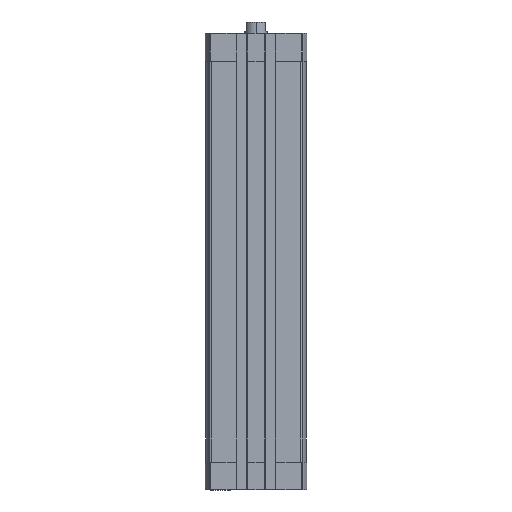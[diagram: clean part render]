
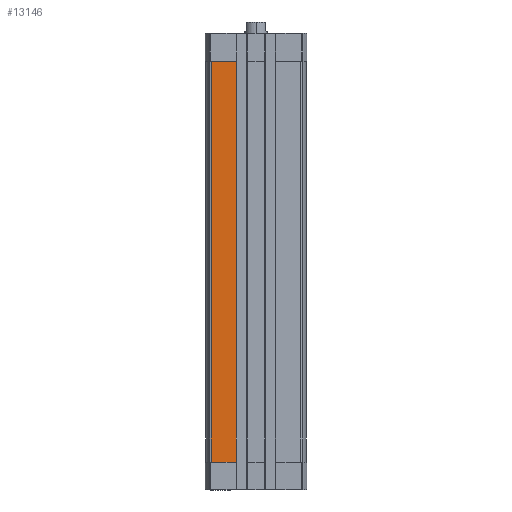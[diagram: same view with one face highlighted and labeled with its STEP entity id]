
A CAD part, left-side view. The second image highlights one B-rep face of the part: STEP entity #13146.
In plain terms, the highlighted planar face has unit normal (-1, 0, 0).
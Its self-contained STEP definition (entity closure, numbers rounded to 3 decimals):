
#57 = CARTESIAN_POINT ( 'NONE',  ( -27., 10.7, -15. ) ) ;
#1042 = DIRECTION ( 'NONE',  ( 0., 0., -1. ) ) ;
#1465 = ORIENTED_EDGE ( 'NONE', *, *, #7260, .T. ) ;
#1785 = CARTESIAN_POINT ( 'NONE',  ( -27., 24.093, -15. ) ) ;
#2828 = VECTOR ( 'NONE', #1042, 1000. ) ;
#3388 = DIRECTION ( 'NONE',  ( 0., -1., 0. ) ) ;
#3964 = LINE ( 'NONE', #7370, #9969 ) ;
#4076 = ORIENTED_EDGE ( 'NONE', *, *, #5489, .T. ) ;
#4108 = VECTOR ( 'NONE', #3388, 1000. ) ;
#4377 = EDGE_CURVE ( 'NONE', #12970, #13076, #6412, .T. ) ;
#4483 = VECTOR ( 'NONE', #7427, 1000. ) ;
#5260 = ORIENTED_EDGE ( 'NONE', *, *, #6555, .T. ) ;
#5489 = EDGE_CURVE ( 'NONE', #13076, #8038, #7285, .T. ) ;
#5827 = DIRECTION ( 'NONE',  ( 0., 0., 1. ) ) ;
#6176 = DIRECTION ( 'NONE',  ( 0., 0., 1. ) ) ;
#6412 = LINE ( 'NONE', #15439, #2828 ) ;
#6555 = EDGE_CURVE ( 'NONE', #8038, #12730, #3964, .T. ) ;
#6958 = CARTESIAN_POINT ( 'NONE',  ( -27., 24.093, -230. ) ) ;
#7260 = EDGE_CURVE ( 'NONE', #12730, #12970, #7690, .T. ) ;
#7285 = LINE ( 'NONE', #6958, #4108 ) ;
#7370 = CARTESIAN_POINT ( 'NONE',  ( -27., 10.7, -230. ) ) ;
#7427 = DIRECTION ( 'NONE',  ( 0., 1., 0. ) ) ;
#7690 = LINE ( 'NONE', #14666, #4483 ) ;
#8038 = VERTEX_POINT ( 'NONE', #10020 ) ;
#8658 = FACE_OUTER_BOUND ( 'NONE', #11444, .T. ) ;
#9969 = VECTOR ( 'NONE', #6176, 1000. ) ;
#10020 = CARTESIAN_POINT ( 'NONE',  ( -27., 10.7, -230. ) ) ;
#10617 = CARTESIAN_POINT ( 'NONE',  ( -27., 24.093, -230. ) ) ;
#11444 = EDGE_LOOP ( 'NONE', ( #4076, #5260, #1465, #11663 ) ) ;
#11663 = ORIENTED_EDGE ( 'NONE', *, *, #4377, .T. ) ;
#12730 = VERTEX_POINT ( 'NONE', #57 ) ;
#12970 = VERTEX_POINT ( 'NONE', #1785 ) ;
#13069 = DIRECTION ( 'NONE',  ( -1., 0., 0. ) ) ;
#13076 = VERTEX_POINT ( 'NONE', #14060 ) ;
#13146 = ADVANCED_FACE ( 'NONE', ( #8658 ), #14213, .T. ) ;
#14060 = CARTESIAN_POINT ( 'NONE',  ( -27., 24.093, -230. ) ) ;
#14213 = PLANE ( 'NONE',  #14837 ) ;
#14666 = CARTESIAN_POINT ( 'NONE',  ( -27., 0., -15. ) ) ;
#14837 = AXIS2_PLACEMENT_3D ( 'NONE', #10617, #13069, #5827 ) ;
#15439 = CARTESIAN_POINT ( 'NONE',  ( -27., 24.093, -230. ) ) ;
